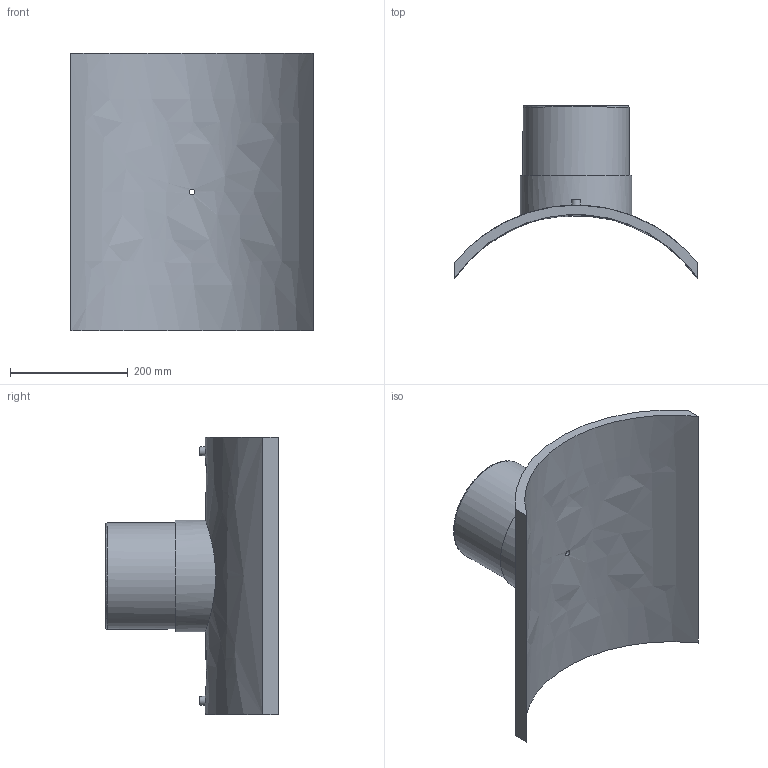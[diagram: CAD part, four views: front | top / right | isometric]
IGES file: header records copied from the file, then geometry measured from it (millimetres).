
Global section: file name: 495803500180T; native system: Autodesk Inventor 2019; preprocessor: unknown; author: KIM; date: 20240404.115138; units: millimetre
Bounding box: 411 x 292.63 x 470 mm (x, y, z)
Volume: 5347846.1 mm3; surface area: 676397.7 mm2
Topology: 1 solids, 1 shells, 29 faces, 60 edges, 43 vertices
Faces by surface type: bspline 29
